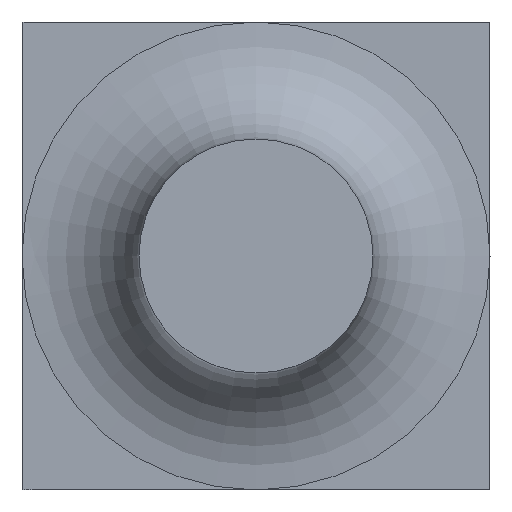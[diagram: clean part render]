
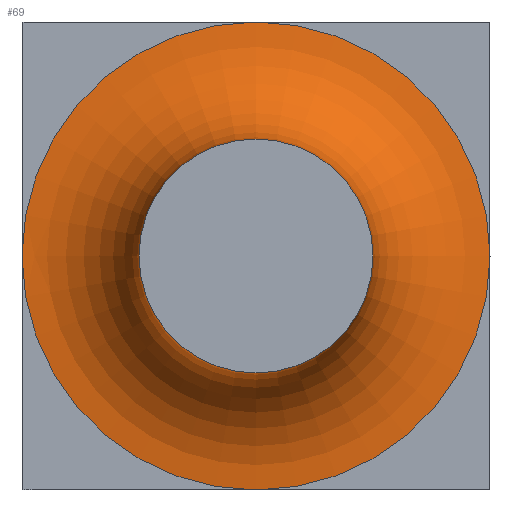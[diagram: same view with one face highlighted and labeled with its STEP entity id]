
A CAD part, front view. The second image highlights one B-rep face of the part: STEP entity #69.
In plain terms, the highlighted toroidal (fillet/blend) face has major radius 6 mm and minor radius 3 mm.
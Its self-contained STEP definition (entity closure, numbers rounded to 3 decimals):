
#69=ADVANCED_FACE('',(#186,#188),#190,.F.);
#186=FACE_BOUND('',#187,.T.);
#187=EDGE_LOOP('',(#252,#253,#254,#255));
#188=FACE_OUTER_BOUND('',#189,.T.);
#189=EDGE_LOOP('',(#256));
#190=TOROIDAL_SURFACE('',#191,6.,3.);
#191=AXIS2_PLACEMENT_3D('',#192,#193,#194);
#192=CARTESIAN_POINT('',(-28.945,32.061,79.474));
#193=DIRECTION('',(0.,-1.,0.));
#194=DIRECTION('',(-1.,0.,0.));
#252=ORIENTED_EDGE('',*,*,#285,.F.);
#253=ORIENTED_EDGE('',*,*,#282,.F.);
#254=ORIENTED_EDGE('',*,*,#287,.F.);
#255=ORIENTED_EDGE('',*,*,#286,.F.);
#256=ORIENTED_EDGE('',*,*,#283,.T.);
#282=EDGE_CURVE('',#322,#295,#330,.F.);
#283=EDGE_CURVE('',#331,#331,#332,.F.);
#285=EDGE_CURVE('',#295,#304,#335,.F.);
#286=EDGE_CURVE('',#304,#315,#336,.F.);
#287=EDGE_CURVE('',#315,#322,#337,.F.);
#295=VERTEX_POINT('',#352);
#304=VERTEX_POINT('',#371);
#315=VERTEX_POINT('',#394);
#322=VERTEX_POINT('',#409);
#330=CIRCLE('',#435,6.);
#331=VERTEX_POINT('',#439);
#332=CIRCLE('',#440,3.);
#335=CIRCLE('',#449,6.);
#336=CIRCLE('',#453,6.);
#337=CIRCLE('',#457,6.);
#352=CARTESIAN_POINT('',(-28.945,35.061,85.474));
#371=CARTESIAN_POINT('',(-22.945,35.061,79.474));
#394=CARTESIAN_POINT('',(-28.945,35.061,73.474));
#409=CARTESIAN_POINT('',(-34.945,35.061,79.474));
#435=AXIS2_PLACEMENT_3D('',#436,#437,#438);
#436=CARTESIAN_POINT('',(-28.945,35.061,79.474));
#437=DIRECTION('',(0.,-1.,0.));
#438=DIRECTION('',(0.,0.,1.));
#439=CARTESIAN_POINT('',(-31.945,32.061,79.474));
#440=AXIS2_PLACEMENT_3D('',#441,#442,#443);
#441=CARTESIAN_POINT('',(-28.945,32.061,79.474));
#442=DIRECTION('',(0.,-1.,0.));
#443=DIRECTION('',(-1.,0.,0.));
#449=AXIS2_PLACEMENT_3D('',#450,#451,#452);
#450=CARTESIAN_POINT('',(-28.945,35.061,79.474));
#451=DIRECTION('',(0.,-1.,0.));
#452=DIRECTION('',(1.,0.,0.));
#453=AXIS2_PLACEMENT_3D('',#454,#455,#456);
#454=CARTESIAN_POINT('',(-28.945,35.061,79.474));
#455=DIRECTION('',(0.,-1.,0.));
#456=DIRECTION('',(0.,0.,-1.));
#457=AXIS2_PLACEMENT_3D('',#458,#459,#460);
#458=CARTESIAN_POINT('',(-28.945,35.061,79.474));
#459=DIRECTION('',(0.,-1.,0.));
#460=DIRECTION('',(-1.,0.,0.));
